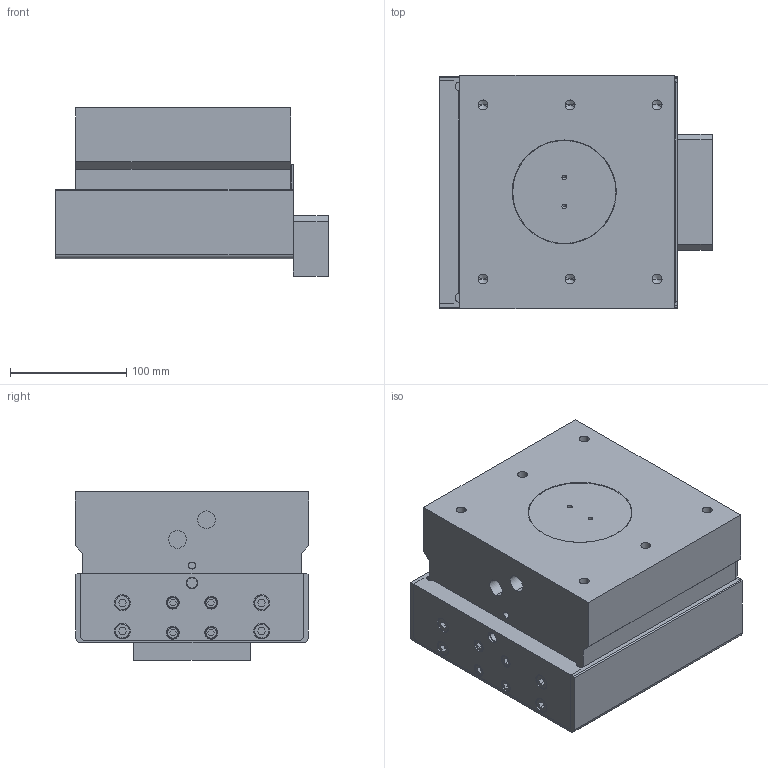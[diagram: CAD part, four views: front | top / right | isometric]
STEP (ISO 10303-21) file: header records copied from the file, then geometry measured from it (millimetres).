
FILE_DESCRIPTION (( 'STEP AP203' ), '1' );
FILE_NAME ('DBSUS3000-EW.STEP', '2008-09-23T06:22:34', ( '' ), ( '' ), 'SwSTEP 2.0', 'SolidWorks 2007', '' );
FILE_SCHEMA (( 'CONFIG_CONTROL_DESIGN' ));
Length unit declared in the file: millimetre
Products named in the file (1): DBSUS3000-EW
Bounding box: 234.8 x 201 x 145 mm (x, y, z)
Volume: 4551564.5 mm3; surface area: 330495.2 mm2
Topology: 1 solids, 4 shells, 384 faces, 930 edges, 594 vertices
Faces by surface type: plane 210, cylinder 118, cone 36, torus 20
Entity records: 11157 total; most frequent: DIRECTION 1984, CARTESIAN_POINT 1889, ORIENTED_EDGE 1820, EDGE_CURVE 910, AXIS2_PLACEMENT_3D 689, VECTOR 606, LINE 606, VERTEX_POINT 594
